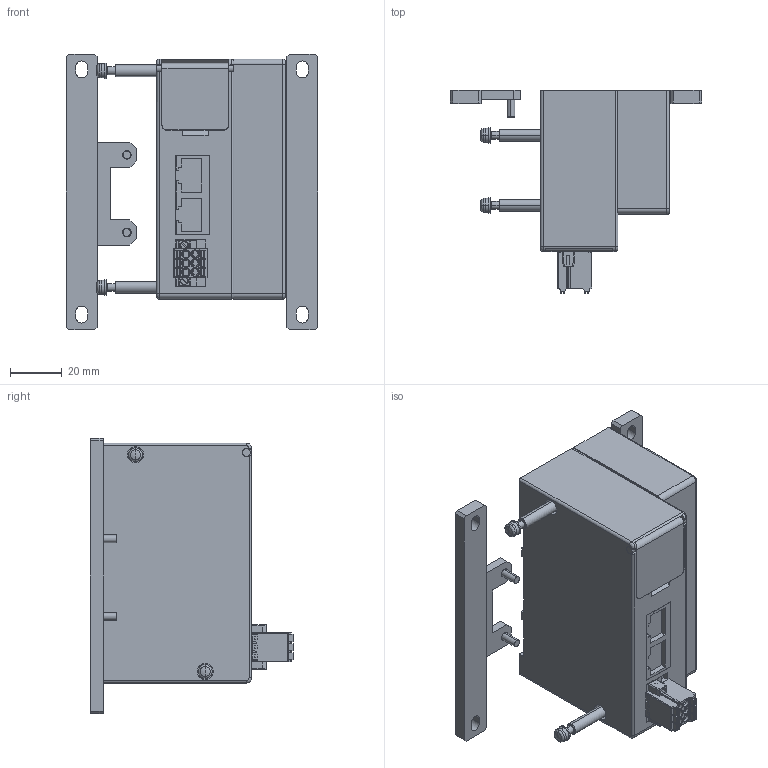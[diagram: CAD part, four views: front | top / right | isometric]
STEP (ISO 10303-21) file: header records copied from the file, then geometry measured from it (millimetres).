
FILE_DESCRIPTION( (''), '2;1');
FILE_NAME ('YS8EK3-1.stp','2022-12-01T14:36:33',(''),(''),'spGate 12.6.6','','');
FILE_SCHEMA (('AUTOMOTIVE_DESIGN'));
Length unit declared in the file: millimetre
Products named in the file (3): Assembly; YS8EK3-1-prt0; YS8EK3-1-prt1
Assembly tree (3 placements, depth 2):
  Assembly
    YS8EK3-1-prt0  x2
    YS8EK3-1-prt1
Bounding box: 97.5 x 78.8 x 107 mm (x, y, z)
Volume: 269270.3 mm3; surface area: 41840.4 mm2
Topology: 3 solids, 3 shells, 825 faces, 2127 edges, 1359 vertices
Faces by surface type: plane 501, cylinder 242, bspline 70, sphere 12
Entity records: 39929 total; most frequent: CARTESIAN_POINT 5493, ORIENTED_EDGE 3950, DIRECTION 3717, COLOUR_RGB 2744, PRESENTATION_STYLE_ASSIGNMENT 2744, STYLED_ITEM 2744, EDGE_CURVE 1975, DRAUGHTING_PRE_DEFINED_CURVE_FONT 1975
